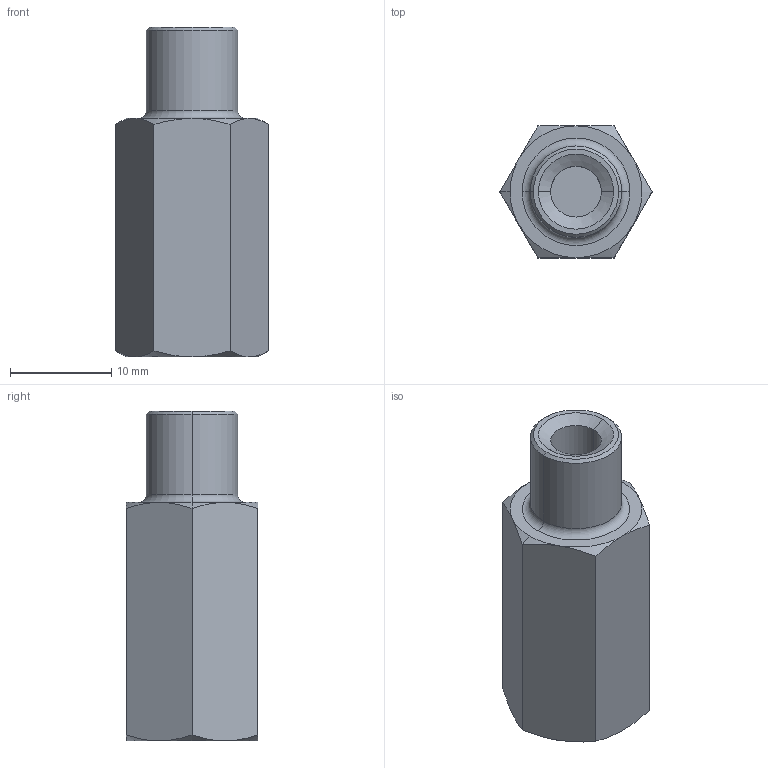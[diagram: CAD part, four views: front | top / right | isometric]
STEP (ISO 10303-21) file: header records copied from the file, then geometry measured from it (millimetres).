
FILE_DESCRIPTION (( 'STEP AP214' ), '1' );
FILE_NAME ('11_008_4.STEP', '2016-08-30T06:41:07', ( '' ), ( '' ), 'SwSTEP 2.0', 'SolidWorks 2016', '' );
FILE_SCHEMA (( 'AUTOMOTIVE_DESIGN' ));
Length unit declared in the file: millimetre
Products named in the file (1): 11_008_4
Bounding box: 15.01 x 13 x 32.5 mm (x, y, z)
Volume: 3289.6 mm3; surface area: 1951.3 mm2
Topology: 1 solids, 1 shells, 39 faces, 80 edges, 46 vertices
Faces by surface type: cone 20, plane 11, cylinder 6, torus 2
Entity records: 1136 total; most frequent: CARTESIAN_POINT 302, DIRECTION 172, ORIENTED_EDGE 160, EDGE_CURVE 80, AXIS2_PLACEMENT_3D 76, VERTEX_POINT 46, EDGE_LOOP 42, FACE_OUTER_BOUND 39
